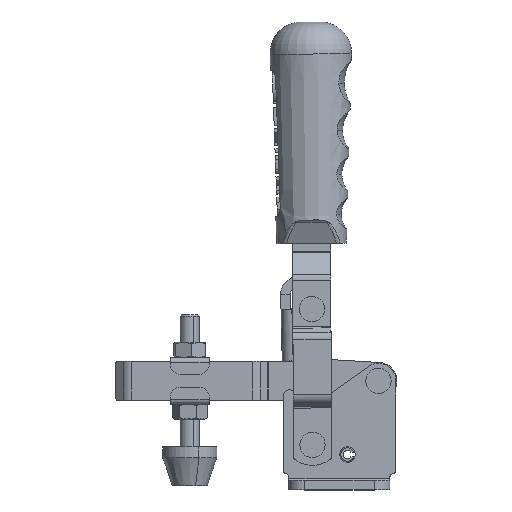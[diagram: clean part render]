
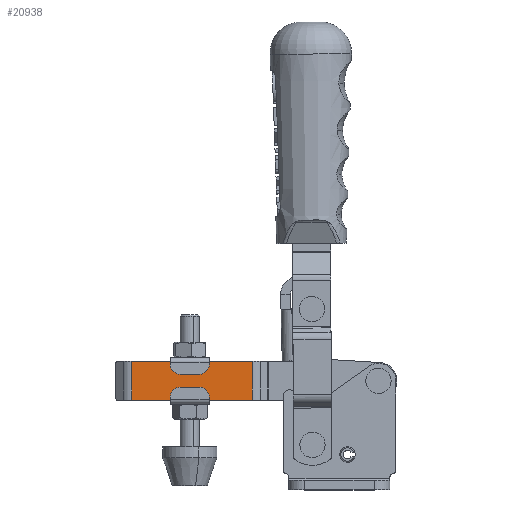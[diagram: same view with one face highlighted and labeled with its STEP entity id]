
A CAD part, top view. The second image highlights one B-rep face of the part: STEP entity #20938.
In plain terms, the highlighted planar face has unit normal (0, 0, 1) as drawn and (0, 0, -1) by its records, which use the part's own axes.
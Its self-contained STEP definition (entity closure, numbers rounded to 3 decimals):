
#606 = FACE_OUTER_BOUND ( 'NONE', #19257, .T. ) ;
#1965 = VECTOR ( 'NONE', #18964, 1000. ) ;
#2280 = EDGE_CURVE ( 'NONE', #9633, #11650, #13826, .T. ) ;
#2795 = CARTESIAN_POINT ( 'NONE',  ( 63.591, -5., 0. ) ) ;
#3045 = CARTESIAN_POINT ( 'NONE',  ( 0., 5., 0. ) ) ;
#3908 = CARTESIAN_POINT ( 'NONE',  ( 32.449, -5., 0. ) ) ;
#4237 = DIRECTION ( 'NONE',  ( 0., 1., 0. ) ) ;
#5408 = CARTESIAN_POINT ( 'NONE',  ( 63.591, 5., 0. ) ) ;
#5881 = CARTESIAN_POINT ( 'NONE',  ( 63.591, 0., 0. ) ) ;
#6727 = CARTESIAN_POINT ( 'NONE',  ( 32.449, 0., 0. ) ) ;
#8550 = EDGE_CURVE ( 'NONE', #21785, #19878, #11231, .T. ) ;
#9091 = CARTESIAN_POINT ( 'NONE',  ( 0., -5., 0. ) ) ;
#9633 = VERTEX_POINT ( 'NONE', #3908 ) ;
#11231 = LINE ( 'NONE', #5881, #11805 ) ;
#11618 = PLANE ( 'NONE',  #19955 ) ;
#11650 = VERTEX_POINT ( 'NONE', #15948 ) ;
#11805 = VECTOR ( 'NONE', #4237, 1000. ) ;
#12337 = ORIENTED_EDGE ( 'NONE', *, *, #2280, .T. ) ;
#12674 = VECTOR ( 'NONE', #15479, 1000. ) ;
#13558 = ORIENTED_EDGE ( 'NONE', *, *, #17449, .F. ) ;
#13826 = LINE ( 'NONE', #6727, #12674 ) ;
#15479 = DIRECTION ( 'NONE',  ( 0., 1., 0. ) ) ;
#15948 = CARTESIAN_POINT ( 'NONE',  ( 32.449, 5., 0. ) ) ;
#16496 = EDGE_CURVE ( 'NONE', #11650, #19878, #17254, .T. ) ;
#16548 = ORIENTED_EDGE ( 'NONE', *, *, #16496, .T. ) ;
#16907 = CARTESIAN_POINT ( 'NONE',  ( 0., 0., 0. ) ) ;
#17254 = LINE ( 'NONE', #3045, #1965 ) ;
#17449 = EDGE_CURVE ( 'NONE', #9633, #21785, #21716, .T. ) ;
#18460 = DIRECTION ( 'NONE',  ( 0., 0., 1. ) ) ;
#18964 = DIRECTION ( 'NONE',  ( 1., 0., 0. ) ) ;
#19257 = EDGE_LOOP ( 'NONE', ( #21429, #13558, #12337, #16548 ) ) ;
#19878 = VERTEX_POINT ( 'NONE', #5408 ) ;
#19937 = DIRECTION ( 'NONE',  ( 1., 0., 0. ) ) ;
#19955 = AXIS2_PLACEMENT_3D ( 'NONE', #16907, #18460, #21987 ) ;
#20622 = VECTOR ( 'NONE', #19937, 1000. ) ;
#20938 = ADVANCED_FACE ( 'NONE', ( #606 ), #11618, .F. ) ;
#21429 = ORIENTED_EDGE ( 'NONE', *, *, #8550, .F. ) ;
#21716 = LINE ( 'NONE', #9091, #20622 ) ;
#21785 = VERTEX_POINT ( 'NONE', #2795 ) ;
#21987 = DIRECTION ( 'NONE',  ( 1., 0., 0. ) ) ;
